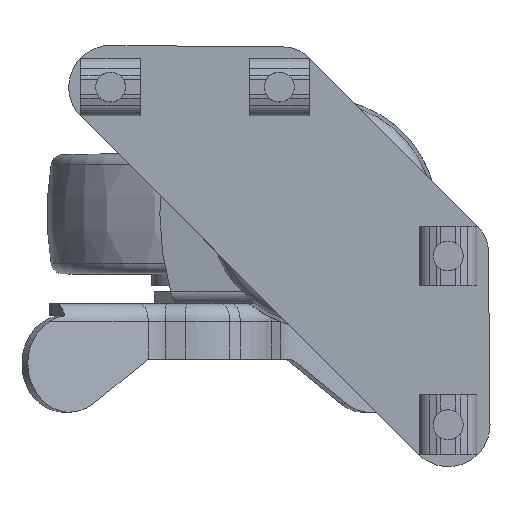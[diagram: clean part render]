
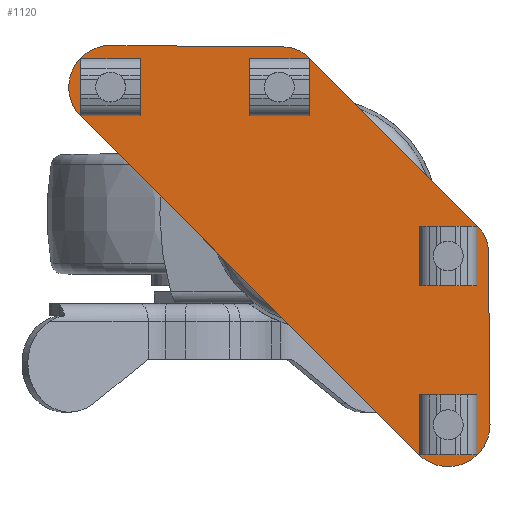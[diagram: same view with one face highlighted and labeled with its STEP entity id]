
A CAD part, top view. The second image highlights one B-rep face of the part: STEP entity #1120.
In plain terms, the highlighted planar face has unit normal (0, 0, 1).
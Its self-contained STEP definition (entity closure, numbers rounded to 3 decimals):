
#1120=ADVANCED_FACE('',(#2143,#2144,#2145,#2146,#2147),#2148,.T.);
#2143=FACE_BOUND('',#3248,.T.);
#2144=FACE_BOUND('',#3249,.T.);
#2145=FACE_BOUND('',#3250,.T.);
#2146=FACE_BOUND('',#3251,.T.);
#2147=FACE_OUTER_BOUND('',#3252,.T.);
#2148=PLANE('',#3253);
#3248=EDGE_LOOP('',(#5639));
#3249=EDGE_LOOP('',(#5640));
#3250=EDGE_LOOP('',(#5641));
#3251=EDGE_LOOP('',(#5642));
#3252=EDGE_LOOP('',(#5643,#5644,#5645,#5646,#5647,#5648,#5649,#5650));
#3253=AXIS2_PLACEMENT_3D('',#5651,#5652,#5653);
#5639=ORIENTED_EDGE('',*,*,#6425,.T.);
#5640=ORIENTED_EDGE('',*,*,#6167,.T.);
#5641=ORIENTED_EDGE('',*,*,#6906,.T.);
#5642=ORIENTED_EDGE('',*,*,#6523,.T.);
#5643=ORIENTED_EDGE('',*,*,#6062,.T.);
#5644=ORIENTED_EDGE('',*,*,#5964,.T.);
#5645=ORIENTED_EDGE('',*,*,#6920,.T.);
#5646=ORIENTED_EDGE('',*,*,#6768,.T.);
#5647=ORIENTED_EDGE('',*,*,#6520,.T.);
#5648=ORIENTED_EDGE('',*,*,#6921,.T.);
#5649=ORIENTED_EDGE('',*,*,#6721,.T.);
#5650=ORIENTED_EDGE('',*,*,#6034,.T.);
#5651=CARTESIAN_POINT('',(28.0,26.954,2.3));
#5652=DIRECTION('',(0.0,0.0,1.0));
#5653=DIRECTION('',(1.0,0.0,0.0));
#5964=EDGE_CURVE('',#6981,#6979,#6982,.T.);
#6034=EDGE_CURVE('',#7112,#7110,#7113,.T.);
#6062=EDGE_CURVE('',#7110,#6981,#7157,.T.);
#6167=EDGE_CURVE('',#7341,#7341,#7342,.T.);
#6425=EDGE_CURVE('',#7748,#7748,#7749,.T.);
#6520=EDGE_CURVE('',#7898,#7896,#7899,.T.);
#6523=EDGE_CURVE('',#7902,#7902,#7903,.T.);
#6721=EDGE_CURVE('',#8178,#7112,#8179,.T.);
#6768=EDGE_CURVE('',#8239,#7898,#8240,.T.);
#6906=EDGE_CURVE('',#8396,#8396,#8397,.T.);
#6920=EDGE_CURVE('',#6979,#8239,#8412,.T.);
#6921=EDGE_CURVE('',#7896,#8178,#8413,.T.);
#6979=VERTEX_POINT('',#8474);
#6981=VERTEX_POINT('',#8477);
#6982=CIRCLE('',#8478,6.0);
#7110=VERTEX_POINT('',#8638);
#7112=VERTEX_POINT('',#8641);
#7113=CIRCLE('',#8642,7.0);
#7157=LINE('',#8716,#8717);
#7341=VERTEX_POINT('',#8996);
#7342=CIRCLE('',#8997,2.6);
#7748=VERTEX_POINT('',#9576);
#7749=CIRCLE('',#9577,2.6);
#7896=VERTEX_POINT('',#9818);
#7898=VERTEX_POINT('',#9821);
#7899=LINE('',#9822,#9823);
#7902=VERTEX_POINT('',#9827);
#7903=CIRCLE('',#9828,2.6);
#8178=VERTEX_POINT('',#10255);
#8179=LINE('',#10256,#10257);
#8239=VERTEX_POINT('',#10362);
#8240=CIRCLE('',#10363,6.0);
#8396=VERTEX_POINT('',#10596);
#8397=CIRCLE('',#10597,2.6);
#8412=LINE('',#10616,#10617);
#8413=CIRCLE('',#10618,7.0);
#8474=CARTESIAN_POINT('',(34.0,26.954,2.3));
#8477=CARTESIAN_POINT('',(32.281,22.749,2.3));
#8478=AXIS2_PLACEMENT_3D('',#10682,#10683,#10684);
#8638=CARTESIAN_POINT('',(11.994,2.095,2.3));
#8641=CARTESIAN_POINT('',(0.,7.,2.3));
#8642=AXIS2_PLACEMENT_3D('',#10799,#10800,#10801);
#8716=CARTESIAN_POINT('',(11.994,2.095,2.3));
#8717=VECTOR('',#10834,1.0);
#8996=CARTESIAN_POINT('',(4.4,7.,2.3));
#8997=AXIS2_PLACEMENT_3D('',#10979,#10980,#10981);
#9576=CARTESIAN_POINT('',(24.4,27.0,2.3));
#9577=AXIS2_PLACEMENT_3D('',#11309,#11310,#11311);
#9818=CARTESIAN_POINT('',(11.994,91.905,2.3));
#9821=CARTESIAN_POINT('',(32.281,71.251,2.3));
#9822=CARTESIAN_POINT('',(32.281,71.251,2.3));
#9823=VECTOR('',#11426,1.0);
#9827=CARTESIAN_POINT('',(24.4,67.0,2.3));
#9828=AXIS2_PLACEMENT_3D('',#11428,#11429,#11430);
#10255=CARTESIAN_POINT('',(0.,87.,2.3));
#10256=CARTESIAN_POINT('',(0.,87.,2.3));
#10257=VECTOR('',#11672,1.0);
#10362=CARTESIAN_POINT('',(34.0,67.046,2.3));
#10363=AXIS2_PLACEMENT_3D('',#11728,#11729,#11730);
#10596=CARTESIAN_POINT('',(4.4,87.0,2.3));
#10597=AXIS2_PLACEMENT_3D('',#11868,#11869,#11870);
#10616=CARTESIAN_POINT('',(34.0,26.954,2.3));
#10617=VECTOR('',#11875,1.0);
#10618=AXIS2_PLACEMENT_3D('',#11876,#11877,#11878);
#10682=CARTESIAN_POINT('',(28.0,26.954,2.3));
#10683=DIRECTION('',(0.0,0.0,1.0));
#10684=DIRECTION('',(1.0,0.0,0.0));
#10799=CARTESIAN_POINT('',(7.0,7.,2.3));
#10800=DIRECTION('',(0.0,0.0,1.0));
#10801=DIRECTION('',(1.0,0.0,0.0));
#10834=DIRECTION('',(0.701,0.713,0.0));
#10979=CARTESIAN_POINT('',(7.0,7.,2.3));
#10980=DIRECTION('',(0.0,0.0,-1.0));
#10981=DIRECTION('',(-1.0,0.0,0.0));
#11309=CARTESIAN_POINT('',(27.0,27.0,2.3));
#11310=DIRECTION('',(0.0,0.0,-1.0));
#11311=DIRECTION('',(-1.0,0.0,0.0));
#11426=DIRECTION('',(-0.701,0.713,0.0));
#11428=CARTESIAN_POINT('',(27.0,67.0,2.3));
#11429=DIRECTION('',(0.0,0.0,-1.0));
#11430=DIRECTION('',(-1.0,0.0,0.0));
#11672=DIRECTION('',(0.0,-1.0,0.0));
#11728=CARTESIAN_POINT('',(28.0,67.046,2.3));
#11729=DIRECTION('',(0.0,0.0,1.0));
#11730=DIRECTION('',(1.0,0.0,0.0));
#11868=CARTESIAN_POINT('',(7.0,87.0,2.3));
#11869=DIRECTION('',(0.0,0.0,-1.0));
#11870=DIRECTION('',(-1.0,0.0,0.0));
#11875=DIRECTION('',(0.0,1.0,0.0));
#11876=CARTESIAN_POINT('',(7.0,87.0,2.3));
#11877=DIRECTION('',(0.0,0.0,1.0));
#11878=DIRECTION('',(1.0,0.0,0.0));
